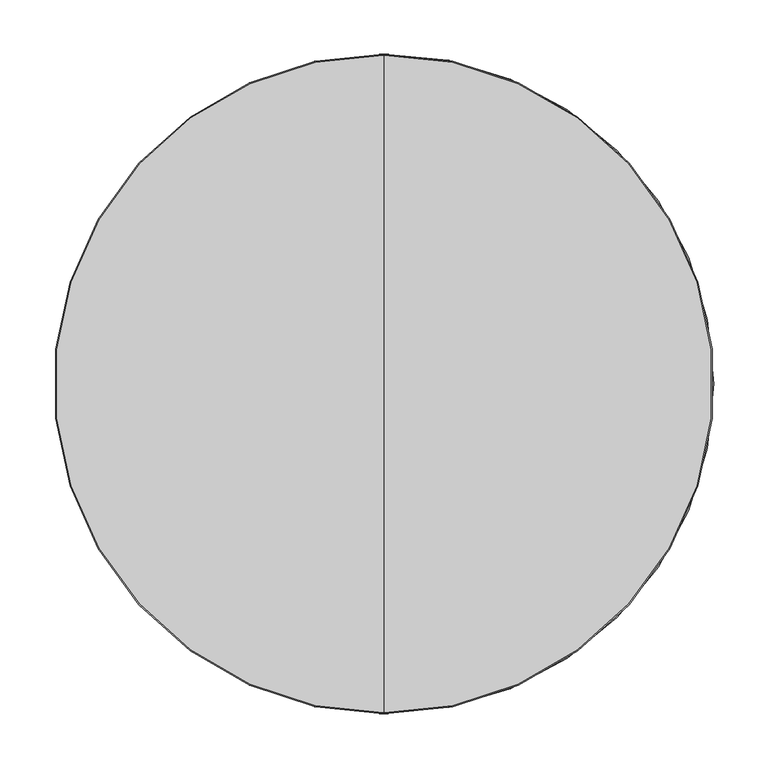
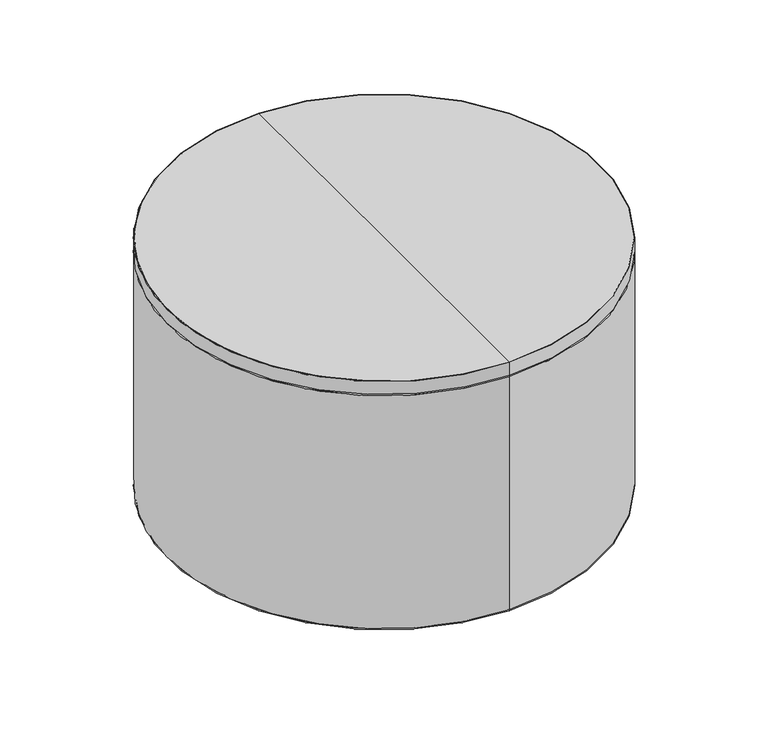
"""IFC4 building model written with IfcOpenShell, lengths in millimetres: furniture geometry, Indiana-Otty-Ottoman_Round_Table : 840-2415ROT."""

from ifc_helpers import new_model, si_unit, point, frame, origin, place, context, project, spatial, polyline, circle_curve, ellipse_curve, trimmed, source, transform, mapped, element, save
from ifc_brep_helpers import plane_surface, cylinder_surface, revolved_surface, advanced_brep


def furniture_63529f93(model_context):
    return source(origin(), model_context, "Body", "AdvancedBrep", [
        advanced_brep(
        [(237.5670449, 57.5253392, 19.8875), (218.0814733, 68.7753392, 19.8875), (257.0526165, 46.2753392, 19.8875), (218.4698785, 68.5510934, 4.2458827), (256.6642112, 46.4995851, 4.2458827), (222.3541253, 66.3085225, -0.1125), (252.7799645, 48.742156, -0.1125), (228.675027, 62.6591482, -0.1125), (246.4590628, 52.3915303, -0.1125), (232.0477423, 60.7119101, 3.9179615), (243.0863475, 54.3387684, 3.9179615), (237.5670449, 57.5253392, 3.9179615)],
        [
            (0, 1),
            (1, 2, circle_curve(frame((237.5670449, 57.5253392, 19.8875), z_axis=(0.0, 0.0, 1.0), x_axis=(-0.8660254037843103, 0.5000000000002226, 0.0)), 22.5)),
            (2, 0),
            (2, 1, circle_curve(frame((237.5670449, 57.5253392, 19.8875), z_axis=(0.0, 0.0, 1.0), x_axis=(-0.8660254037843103, 0.5000000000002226, 0.0)), 22.5)),
            (1, 3),
            (3, 4, circle_curve(frame((237.5670449, 57.5253392, 4.2458827), z_axis=(0.0, 0.0, 1.0), x_axis=(-0.8660254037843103, 0.5000000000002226, 0.0)), 22.0515082)),
            (4, 2),
            (4, 3, circle_curve(frame((237.5670449, 57.5253392, 4.2458827), z_axis=(0.0, 0.0, 1.0), x_axis=(-0.8660254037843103, 0.5000000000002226, 0.0)), 22.0515082)),
            (3, 5, circle_curve(frame((222.3541253, 66.3085225, 4.3744851), z_axis=(-0.5000000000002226, -0.8660254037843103, 0.0), x_axis=(0.8660254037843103, -0.5000000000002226, 0.0)), 4.4869851)),
            (5, 6, circle_curve(frame((237.5670449, 57.5253392, -0.1125), z_axis=(0.0, 0.0, 1.0), x_axis=(-0.8660254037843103, 0.5000000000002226, 0.0)), 17.5663665)),
            (6, 4, circle_curve(frame((252.7799645, 48.742156, 4.3744851), z_axis=(-0.5000000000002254, -0.8660254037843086, 0.0), x_axis=(-0.8660254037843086, 0.5000000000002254, 0.0)), 4.4869851)),
            (6, 5, circle_curve(frame((237.5670449, 57.5253392, -0.1125), z_axis=(0.0, 0.0, 1.0), x_axis=(-0.8660254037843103, 0.5000000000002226, 0.0)), 17.5663665)),
            (5, 7),
            (7, 8, circle_curve(frame((237.5670449, 57.5253392, -0.1125), z_axis=(0.0, 0.0, 1.0), x_axis=(-0.8660254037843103, 0.5000000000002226, 0.0)), 10.2676178)),
            (8, 6),
            (8, 7, circle_curve(frame((237.5670449, 57.5253392, -0.1125), z_axis=(0.0, 0.0, 1.0), x_axis=(-0.8660254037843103, 0.5000000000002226, 0.0)), 10.2676178)),
            (7, 9, circle_curve(frame((228.675027, 62.6591482, 3.7842702), z_axis=(-0.5000000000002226, -0.8660254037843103, 0.0), x_axis=(0.8660254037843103, -0.5000000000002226, 0.0)), 3.8967702)),
            (9, 10, circle_curve(frame((237.5670449, 57.5253392, 3.9179615), z_axis=(0.0, 0.0, 1.0), x_axis=(-0.8660254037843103, 0.5000000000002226, 0.0)), 6.3731417)),
            (10, 8, circle_curve(frame((246.4590628, 52.3915303, 3.7842702), z_axis=(-0.5000000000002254, -0.8660254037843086, 0.0), x_axis=(-0.8660254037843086, 0.5000000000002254, 0.0)), 3.8967702)),
            (10, 9, circle_curve(frame((237.5670449, 57.5253392, 3.9179615), z_axis=(0.0, 0.0, 1.0), x_axis=(-0.8660254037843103, 0.5000000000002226, 0.0)), 6.3731417)),
            (9, 11),
            (11, 10),
        ],
        [
            plane_surface(frame((237.5670449, 57.5253392, 19.8875), z_axis=(0.0, 0.0, 1.0000000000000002), x_axis=(-0.8660254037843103, 0.5000000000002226, 0.0))),
            revolved_surface(polyline([(218.4698785, 68.5510934, 4.2458827), (218.0814733, 68.7753392, 19.8875)]), (237.5670449, 57.5253392, 31.0803862), (0.0, 0.0, 1.0)),
            revolved_surface(trimmed(ellipse_curve(frame((222.3541253, 66.3085225, 4.3744851), z_axis=(0.5000000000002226, 0.8660254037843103, 0.0), x_axis=(0.8660254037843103, -0.5000000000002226, 0.0)), 4.4869851, 4.4869851), [point((222.3541253, 66.3085225, -0.1125))], [point((218.4698785, 68.5510934, 4.2458827))], True, "CARTESIAN"), (237.5670449, 57.5253392, 31.0803862), (0.0, 0.0, 1.0)),
            plane_surface(frame((237.5670449, 57.5253392, -0.1125), z_axis=(0.0, 0.0, -1.0000000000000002), x_axis=(-0.8660254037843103, 0.5000000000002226, 0.0))),
            revolved_surface(trimmed(ellipse_curve(frame((228.675027, 62.6591482, 3.7842702), z_axis=(0.5000000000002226, 0.8660254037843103, 0.0), x_axis=(0.8660254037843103, -0.5000000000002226, 0.0)), 3.8967702, 3.8967702), [point((232.0477423, 60.7119101, 3.9179615))], [point((228.675027, 62.6591482, -0.1125))], True, "CARTESIAN"), (237.5670449, 57.5253392, 31.0803862), (0.0, 0.0, 1.0)),
            plane_surface(frame((237.5670449, 57.5253392, 3.9179615), z_axis=(0.0, 0.0, -1.0000000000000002), x_axis=(-0.8660254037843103, 0.5000000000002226, 0.0))),
        ],
        [
            (0, [[1, 2, 3]]),
            (0, [[-3, 4, -1]]),
            (1, [[-2, 5, 6, 7]]),
            (1, [[-4, -7, 8, -5]]),
            (2, [[-6, 9, 10, 11]]),
            (2, [[-8, -11, 12, -9]]),
            (3, [[-10, 13, 14, 15]]),
            (3, [[-12, -15, 16, -13]]),
            (4, [[-14, 17, 18, 19]]),
            (4, [[-16, -19, 20, -17]]),
            (5, [[-18, 21, 22]]),
            (5, [[-20, -22, -21]]),
        ],
    ),
        advanced_brep(
        [(168.6019276, -176.9764263, 19.8875), (168.6019276, -154.4764263, 19.8875), (168.6019276, -199.4764263, 19.8875), (168.6019276, -154.9249181, 4.2458827), (168.6019276, -199.0279346, 4.2458827), (168.6019276, -159.4100599, -0.1125), (168.6019276, -194.5427928, -0.1125), (168.6019276, -166.7088085, -0.1125), (168.6019276, -187.2440442, -0.1125), (168.6019276, -170.6032847, 3.9179615), (168.6019276, -183.349568, 3.9179615), (168.6019276, -176.9764263, 3.9179615)],
        [
            (0, 1),
            (1, 2, circle_curve(frame((168.6019276, -176.9764263, 19.8875), z_axis=(0.0, 0.0, 1.0), x_axis=(0.0, 1.0, 0.0)), 22.5)),
            (2, 0),
            (2, 1, circle_curve(frame((168.6019276, -176.9764263, 19.8875), z_axis=(0.0, 0.0, 1.0), x_axis=(0.0, 1.0, 0.0)), 22.5)),
            (1, 3),
            (3, 4, circle_curve(frame((168.6019276, -176.9764263, 4.2458827), z_axis=(0.0, 0.0, 1.0), x_axis=(0.0, 1.0, 0.0)), 22.0515082)),
            (4, 2),
            (4, 3, circle_curve(frame((168.6019276, -176.9764263, 4.2458827), z_axis=(0.0, 0.0, 1.0), x_axis=(0.0, 1.0, 0.0)), 22.0515082)),
            (3, 5, circle_curve(frame((168.6019276, -159.4100599, 4.3744851), z_axis=(-1.0, 0.0, 0.0), x_axis=(0.0, -1.0, 0.0)), 4.4869851)),
            (5, 6, circle_curve(frame((168.6019276, -176.9764263, -0.1125), z_axis=(0.0, 0.0, 1.0), x_axis=(0.0, 1.0, 0.0)), 17.5663665)),
            (6, 4, circle_curve(frame((168.6019276, -194.5427928, 4.3744851), z_axis=(-1.0, 0.0, 0.0), x_axis=(0.0, 1.0, 0.0)), 4.4869851)),
            (6, 5, circle_curve(frame((168.6019276, -176.9764263, -0.1125), z_axis=(0.0, 0.0, 1.0), x_axis=(0.0, 1.0, 0.0)), 17.5663665)),
            (5, 7),
            (7, 8, circle_curve(frame((168.6019276, -176.9764263, -0.1125), z_axis=(0.0, 0.0, 1.0), x_axis=(0.0, 1.0, 0.0)), 10.2676178)),
            (8, 6),
            (8, 7, circle_curve(frame((168.6019276, -176.9764263, -0.1125), z_axis=(0.0, 0.0, 1.0), x_axis=(0.0, 1.0, 0.0)), 10.2676178)),
            (7, 9, circle_curve(frame((168.6019276, -166.7088085, 3.7842702), z_axis=(-1.0, 0.0, 0.0), x_axis=(0.0, -1.0, 0.0)), 3.8967702)),
            (9, 10, circle_curve(frame((168.6019276, -176.9764263, 3.9179615), z_axis=(0.0, 0.0, 1.0), x_axis=(0.0, 1.0, 0.0)), 6.3731417)),
            (10, 8, circle_curve(frame((168.6019276, -187.2440442, 3.7842702), z_axis=(-1.0, 0.0, 0.0), x_axis=(0.0, 1.0, 0.0)), 3.8967702)),
            (10, 9, circle_curve(frame((168.6019276, -176.9764263, 3.9179615), z_axis=(0.0, 0.0, 1.0), x_axis=(0.0, 1.0, 0.0)), 6.3731417)),
            (9, 11),
            (11, 10),
        ],
        [
            plane_surface(frame((168.6019276, -176.9764263, 19.8875), z_axis=(0.0, 0.0, 1.0), x_axis=(0.0, 1.0, 0.0))),
            revolved_surface(polyline([(168.6019276, -154.9249181, 4.2458827), (168.6019276, -154.4764263, 19.8875)]), (168.6019276, -176.9764263, 31.0803862), (0.0, 0.0, 1.0)),
            revolved_surface(trimmed(ellipse_curve(frame((168.6019276, -159.4100599, 4.3744851), z_axis=(1.0, 0.0, 0.0), x_axis=(0.0, -1.0, 0.0)), 4.4869851, 4.4869851), [point((168.6019276, -159.4100599, -0.1125))], [point((168.6019276, -154.9249181, 4.2458827))], True, "CARTESIAN"), (168.6019276, -176.9764263, 31.0803862), (0.0, 0.0, 1.0)),
            plane_surface(frame((168.6019276, -176.9764263, -0.1125), z_axis=(0.0, 0.0, -1.0), x_axis=(0.0, 1.0, 0.0))),
            revolved_surface(trimmed(ellipse_curve(frame((168.6019276, -166.7088085, 3.7842702), z_axis=(1.0, 0.0, 0.0), x_axis=(0.0, -1.0, 0.0)), 3.8967702, 3.8967702), [point((168.6019276, -170.6032847, 3.9179615))], [point((168.6019276, -166.7088085, -0.1125))], True, "CARTESIAN"), (168.6019276, -176.9764263, 31.0803862), (0.0, 0.0, 1.0)),
            plane_surface(frame((168.6019276, -176.9764263, 3.9179615), z_axis=(0.0, 0.0, -1.0), x_axis=(0.0, 1.0, 0.0))),
        ],
        [
            (0, [[1, 2, 3]]),
            (0, [[-3, 4, -1]]),
            (1, [[-2, 5, 6, 7]]),
            (1, [[-4, -7, 8, -5]]),
            (2, [[-6, 9, 10, 11]]),
            (2, [[-8, -11, 12, -9]]),
            (3, [[-10, 13, 14, 15]]),
            (3, [[-12, -15, 16, -13]]),
            (4, [[-14, 17, 18, 19]]),
            (4, [[-16, -19, 20, -17]]),
            (5, [[-18, 21, 22]]),
            (5, [[-20, -22, -21]]),
        ],
    ),
        advanced_brep(
        [(0.0, -303.8078125, 361.95), (0.0, 303.8078125, 361.95), (0.0, 0.0, 361.95), (0.0, -303.8078125, 381.0), (0.0, 303.8078125, 381.0), (0.0, 0.0, 381.0)],
        [
            (0, 1, circle_curve(frame((0.0, 0.0, 361.95), z_axis=(0.0, 0.0, -1.0), x_axis=(0.0, 1.0, 0.0)), 303.8078125)),
            (1, 2),
            (2, 0),
            (1, 0, circle_curve(frame((0.0, 0.0, 361.95), z_axis=(0.0, 0.0, -1.0), x_axis=(0.0, 1.0, 0.0)), 303.8078125)),
            (3, 4, circle_curve(frame((0.0, 0.0, 381.0), z_axis=(0.0, 0.0, -1.0), x_axis=(0.0, 1.0, 0.0)), 303.8078125)),
            (4, 1),
            (0, 3),
            (4, 3, circle_curve(frame((0.0, 0.0, 381.0), z_axis=(0.0, 0.0, -1.0), x_axis=(0.0, 1.0, 0.0)), 303.8078125)),
            (5, 4),
            (3, 5),
        ],
        [
            plane_surface(frame((0.0, 0.0, 361.95), z_axis=(0.0, 0.0, -1.0), x_axis=(0.0, 1.0, 0.0))),
            cylinder_surface(frame((0.0, 0.0, 387.35), z_axis=(0.0, 0.0, 1.0), x_axis=(0.0, 1.0, 0.0)), 303.8078125),
            plane_surface(frame((0.0, 0.0, 381.0), z_axis=(0.0, 0.0, 1.0), x_axis=(0.0, 1.0, 0.0))),
        ],
        [
            (0, [[1, 2, 3]]),
            (0, [[4, -3, -2]]),
            (1, [[5, 6, -1, 7]]),
            (1, [[8, -7, -4, -6]]),
            (2, [[9, -5, 10]]),
            (2, [[-10, -8, -9]]),
        ],
    ),
        advanced_brep(
        [(0.0, -303.8078125, 361.95), (0.0, 303.8078125, 361.95), (0.0, 303.8078125, 381.0), (0.0, -303.8078125, 381.0), (0.0, -304.8, 361.95), (0.0, 304.8, 361.95), (0.0, -304.8, 381.0), (0.0, 304.8, 381.0)],
        [
            (0, 1, circle_curve(frame((0.0, 0.0, 361.95), z_axis=(0.0, 0.0, -1.0), x_axis=(0.0, 1.0, 0.0)), 303.8078125)),
            (1, 2),
            (2, 3, circle_curve(frame((0.0, 0.0, 381.0), z_axis=(0.0, 0.0, 1.0), x_axis=(0.0, 1.0, 0.0)), 303.8078125)),
            (3, 0),
            (1, 0, circle_curve(frame((0.0, 0.0, 361.95), z_axis=(0.0, 0.0, -1.0), x_axis=(0.0, 1.0, 0.0)), 303.8078125)),
            (3, 2, circle_curve(frame((0.0, 0.0, 381.0), z_axis=(0.0, 0.0, 1.0), x_axis=(0.0, 1.0, 0.0)), 303.8078125)),
            (4, 5, circle_curve(frame((0.0, 0.0, 361.95), z_axis=(0.0, 0.0, -1.0), x_axis=(0.0, 1.0, 0.0)), 304.8)),
            (5, 1),
            (0, 4),
            (5, 4, circle_curve(frame((0.0, 0.0, 361.95), z_axis=(0.0, 0.0, -1.0), x_axis=(0.0, 1.0, 0.0)), 304.8)),
            (6, 7, circle_curve(frame((0.0, 0.0, 381.0), z_axis=(0.0, 0.0, -1.0), x_axis=(0.0, 1.0, 0.0)), 304.8)),
            (7, 5),
            (4, 6),
            (7, 6, circle_curve(frame((0.0, 0.0, 381.0), z_axis=(0.0, 0.0, -1.0), x_axis=(0.0, 1.0, 0.0)), 304.8)),
            (2, 7),
            (6, 3),
        ],
        [
            revolved_surface(polyline([(0.0, 303.8078125, 381.0), (0.0, 303.8078125, 361.95)]), (0.0, 0.0, 400.05), (0.0, 0.0, 1.0)),
            plane_surface(frame((0.0, 0.0, 361.95), z_axis=(0.0, 0.0, -1.0), x_axis=(0.0, 1.0, 0.0))),
            cylinder_surface(frame((0.0, 0.0, 400.05), z_axis=(0.0, 0.0, 1.0), x_axis=(0.0, 1.0, 0.0)), 304.8),
            plane_surface(frame((0.0, 0.0, 381.0), z_axis=(0.0, 0.0, 1.0), x_axis=(0.0, 1.0, 0.0))),
        ],
        [
            (0, [[1, 2, 3, 4]]),
            (0, [[5, -4, 6, -2]]),
            (1, [[7, 8, -1, 9]]),
            (1, [[10, -9, -5, -8]]),
            (2, [[11, 12, -7, 13]]),
            (2, [[14, -13, -10, -12]]),
            (3, [[-3, 15, -11, 16]]),
            (3, [[-6, -16, -14, -15]]),
        ],
    ),
        advanced_brep(
        [(-68.9651173, -234.5017656, 19.8875), (-49.4795457, -223.2517656, 19.8875), (-88.4506889, -245.7517656, 19.8875), (-49.867951, -223.4760115, 4.2458827), (-88.0622836, -245.5275197, 4.2458827), (-53.7521977, -225.7185823, -0.1125), (-84.1780369, -243.2849488, -0.1125), (-60.0730994, -229.3679567, -0.1125), (-77.8571352, -239.6355745, -0.1125), (-63.4458147, -231.3151948, 3.9179615), (-74.4844199, -237.6883364, 3.9179615), (-68.9651173, -234.5017656, 3.9179615)],
        [
            (0, 1),
            (1, 2, circle_curve(frame((-68.9651173, -234.5017656, 19.8875), z_axis=(0.0, 0.0, 1.0), x_axis=(0.866025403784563, 0.49999999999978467, 0.0)), 22.5)),
            (2, 0),
            (2, 1, circle_curve(frame((-68.9651173, -234.5017656, 19.8875), z_axis=(0.0, 0.0, 1.0), x_axis=(0.866025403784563, 0.49999999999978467, 0.0)), 22.5)),
            (1, 3),
            (3, 4, circle_curve(frame((-68.9651173, -234.5017656, 4.2458827), z_axis=(0.0, 0.0, 1.0), x_axis=(0.866025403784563, 0.49999999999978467, 0.0)), 22.0515082)),
            (4, 2),
            (4, 3, circle_curve(frame((-68.9651173, -234.5017656, 4.2458827), z_axis=(0.0, 0.0, 1.0), x_axis=(0.866025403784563, 0.49999999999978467, 0.0)), 22.0515082)),
            (3, 5, circle_curve(frame((-53.7521977, -225.7185823, 4.3744851), z_axis=(-0.49999999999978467, 0.866025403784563, 0.0), x_axis=(-0.866025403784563, -0.49999999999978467, 0.0)), 4.4869851)),
            (5, 6, circle_curve(frame((-68.9651173, -234.5017656, -0.1125), z_axis=(0.0, 0.0, 1.0), x_axis=(0.866025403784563, 0.49999999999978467, 0.0)), 17.5663665)),
            (6, 4, circle_curve(frame((-84.1780369, -243.2849488, 4.3744851), z_axis=(-0.4999999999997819, 0.8660254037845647, 0.0), x_axis=(0.8660254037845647, 0.4999999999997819, 0.0)), 4.4869851)),
            (6, 5, circle_curve(frame((-68.9651173, -234.5017656, -0.1125), z_axis=(0.0, 0.0, 1.0), x_axis=(0.866025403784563, 0.49999999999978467, 0.0)), 17.5663665)),
            (5, 7),
            (7, 8, circle_curve(frame((-68.9651173, -234.5017656, -0.1125), z_axis=(0.0, 0.0, 1.0), x_axis=(0.866025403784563, 0.49999999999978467, 0.0)), 10.2676178)),
            (8, 6),
            (8, 7, circle_curve(frame((-68.9651173, -234.5017656, -0.1125), z_axis=(0.0, 0.0, 1.0), x_axis=(0.866025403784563, 0.49999999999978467, 0.0)), 10.2676178)),
            (7, 9, circle_curve(frame((-60.0730994, -229.3679567, 3.7842702), z_axis=(-0.49999999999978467, 0.866025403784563, 0.0), x_axis=(-0.866025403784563, -0.49999999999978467, 0.0)), 3.8967702)),
            (9, 10, circle_curve(frame((-68.9651173, -234.5017656, 3.9179615), z_axis=(0.0, 0.0, 1.0), x_axis=(0.866025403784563, 0.49999999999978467, 0.0)), 6.3731417)),
            (10, 8, circle_curve(frame((-77.8571352, -239.6355745, 3.7842702), z_axis=(-0.4999999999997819, 0.8660254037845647, 0.0), x_axis=(0.8660254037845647, 0.4999999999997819, 0.0)), 3.8967702)),
            (10, 9, circle_curve(frame((-68.9651173, -234.5017656, 3.9179615), z_axis=(0.0, 0.0, 1.0), x_axis=(0.866025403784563, 0.49999999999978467, 0.0)), 6.3731417)),
            (9, 11),
            (11, 10),
        ],
        [
            plane_surface(frame((-68.9651173, -234.5017656, 19.8875), z_axis=(0.0, 0.0, 1.0000000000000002), x_axis=(0.866025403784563, 0.49999999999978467, 0.0))),
            revolved_surface(polyline([(-49.867951, -223.4760115, 4.2458827), (-49.4795457, -223.2517656, 19.8875)]), (-68.9651173, -234.5017656, 31.0803862), (0.0, 0.0, 1.0)),
            revolved_surface(trimmed(ellipse_curve(frame((-53.7521977, -225.7185823, 4.3744851), z_axis=(0.49999999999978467, -0.866025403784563, 0.0), x_axis=(-0.866025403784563, -0.49999999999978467, 0.0)), 4.4869851, 4.4869851), [point((-53.7521977, -225.7185823, -0.1125))], [point((-49.867951, -223.4760115, 4.2458827))], True, "CARTESIAN"), (-68.9651173, -234.5017656, 31.0803862), (0.0, 0.0, 1.0)),
            plane_surface(frame((-68.9651173, -234.5017656, -0.1125), z_axis=(0.0, 0.0, -1.0000000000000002), x_axis=(0.866025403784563, 0.49999999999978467, 0.0))),
            revolved_surface(trimmed(ellipse_curve(frame((-60.0730994, -229.3679567, 3.7842702), z_axis=(0.49999999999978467, -0.866025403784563, 0.0), x_axis=(-0.866025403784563, -0.49999999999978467, 0.0)), 3.8967702, 3.8967702), [point((-63.4458147, -231.3151948, 3.9179615))], [point((-60.0730994, -229.3679567, -0.1125))], True, "CARTESIAN"), (-68.9651173, -234.5017656, 31.0803862), (0.0, 0.0, 1.0)),
            plane_surface(frame((-68.9651173, -234.5017656, 3.9179615), z_axis=(0.0, 0.0, -1.0000000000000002), x_axis=(0.866025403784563, 0.49999999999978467, 0.0))),
        ],
        [
            (0, [[1, 2, 3]]),
            (0, [[-3, 4, -1]]),
            (1, [[-2, 5, 6, 7]]),
            (1, [[-4, -7, 8, -5]]),
            (2, [[-6, 9, 10, 11]]),
            (2, [[-8, -11, 12, -9]]),
            (3, [[-10, 13, 14, 15]]),
            (3, [[-12, -15, 16, -13]]),
            (4, [[-14, 17, 18, 19]]),
            (4, [[-16, -19, 20, -17]]),
            (5, [[-18, 21, 22]]),
            (5, [[-20, -22, -21]]),
        ],
    ),
        advanced_brep(
        [(-237.5670449, -57.5253392, 19.8875), (-218.0814733, -68.7753392, 19.8875), (-257.0526165, -46.2753392, 19.8875), (-218.4698785, -68.5510934, 4.2458827), (-256.6642112, -46.4995851, 4.2458827), (-222.3541253, -66.3085225, -0.1125), (-252.7799645, -48.742156, -0.1125), (-228.675027, -62.6591482, -0.1125), (-246.4590628, -52.3915303, -0.1125), (-232.0477423, -60.7119101, 3.9179615), (-243.0863475, -54.3387684, 3.9179615), (-237.5670449, -57.5253392, 3.9179615)],
        [
            (0, 1),
            (1, 2, circle_curve(frame((-237.5670449, -57.5253392, 19.8875), z_axis=(0.0, 0.0, 1.0), x_axis=(0.8660254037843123, -0.500000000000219, 0.0)), 22.5)),
            (2, 0),
            (2, 1, circle_curve(frame((-237.5670449, -57.5253392, 19.8875), z_axis=(0.0, 0.0, 1.0), x_axis=(0.8660254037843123, -0.500000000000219, 0.0)), 22.5)),
            (1, 3),
            (3, 4, circle_curve(frame((-237.5670449, -57.5253392, 4.2458827), z_axis=(0.0, 0.0, 1.0), x_axis=(0.8660254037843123, -0.500000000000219, 0.0)), 22.0515082)),
            (4, 2),
            (4, 3, circle_curve(frame((-237.5670449, -57.5253392, 4.2458827), z_axis=(0.0, 0.0, 1.0), x_axis=(0.8660254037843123, -0.500000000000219, 0.0)), 22.0515082)),
            (3, 5, circle_curve(frame((-222.3541253, -66.3085225, 4.3744851), z_axis=(0.500000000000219, 0.8660254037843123, 0.0), x_axis=(-0.8660254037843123, 0.500000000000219, 0.0)), 4.4869851)),
            (5, 6, circle_curve(frame((-237.5670449, -57.5253392, -0.1125), z_axis=(0.0, 0.0, 1.0), x_axis=(0.8660254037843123, -0.500000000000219, 0.0)), 17.5663665)),
            (6, 4, circle_curve(frame((-252.7799645, -48.742156, 4.3744851), z_axis=(0.5000000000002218, 0.8660254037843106, 0.0), x_axis=(0.8660254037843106, -0.5000000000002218, 0.0)), 4.4869851)),
            (6, 5, circle_curve(frame((-237.5670449, -57.5253392, -0.1125), z_axis=(0.0, 0.0, 1.0), x_axis=(0.8660254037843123, -0.500000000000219, 0.0)), 17.5663665)),
            (5, 7),
            (7, 8, circle_curve(frame((-237.5670449, -57.5253392, -0.1125), z_axis=(0.0, 0.0, 1.0), x_axis=(0.8660254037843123, -0.500000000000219, 0.0)), 10.2676178)),
            (8, 6),
            (8, 7, circle_curve(frame((-237.5670449, -57.5253392, -0.1125), z_axis=(0.0, 0.0, 1.0), x_axis=(0.8660254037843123, -0.500000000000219, 0.0)), 10.2676178)),
            (7, 9, circle_curve(frame((-228.675027, -62.6591482, 3.7842702), z_axis=(0.500000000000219, 0.8660254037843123, 0.0), x_axis=(-0.8660254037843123, 0.500000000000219, 0.0)), 3.8967702)),
            (9, 10, circle_curve(frame((-237.5670449, -57.5253392, 3.9179615), z_axis=(0.0, 0.0, 1.0), x_axis=(0.8660254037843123, -0.500000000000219, 0.0)), 6.3731417)),
            (10, 8, circle_curve(frame((-246.4590628, -52.3915303, 3.7842702), z_axis=(0.5000000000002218, 0.8660254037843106, 0.0), x_axis=(0.8660254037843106, -0.5000000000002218, 0.0)), 3.8967702)),
            (10, 9, circle_curve(frame((-237.5670449, -57.5253392, 3.9179615), z_axis=(0.0, 0.0, 1.0), x_axis=(0.8660254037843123, -0.500000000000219, 0.0)), 6.3731417)),
            (9, 11),
            (11, 10),
        ],
        [
            plane_surface(frame((-237.5670449, -57.5253392, 19.8875), z_axis=(0.0, 0.0, 1.0), x_axis=(0.8660254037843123, -0.500000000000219, 0.0))),
            revolved_surface(polyline([(-218.4698785, -68.5510934, 4.2458827), (-218.0814733, -68.7753392, 19.8875)]), (-237.5670449, -57.5253392, 31.0803862), (0.0, 0.0, 1.0)),
            revolved_surface(trimmed(ellipse_curve(frame((-222.3541253, -66.3085225, 4.3744851), z_axis=(-0.500000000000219, -0.8660254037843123, 0.0), x_axis=(-0.8660254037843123, 0.500000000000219, 0.0)), 4.4869851, 4.4869851), [point((-222.3541253, -66.3085225, -0.1125))], [point((-218.4698785, -68.5510934, 4.2458827))], True, "CARTESIAN"), (-237.5670449, -57.5253392, 31.0803862), (0.0, 0.0, 1.0)),
            plane_surface(frame((-237.5670449, -57.5253392, -0.1125), z_axis=(0.0, 0.0, -1.0), x_axis=(0.8660254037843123, -0.500000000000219, 0.0))),
            revolved_surface(trimmed(ellipse_curve(frame((-228.675027, -62.6591482, 3.7842702), z_axis=(-0.500000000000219, -0.8660254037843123, 0.0), x_axis=(-0.8660254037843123, 0.500000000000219, 0.0)), 3.8967702, 3.8967702), [point((-232.0477423, -60.7119101, 3.9179615))], [point((-228.675027, -62.6591482, -0.1125))], True, "CARTESIAN"), (-237.5670449, -57.5253392, 31.0803862), (0.0, 0.0, 1.0)),
            plane_surface(frame((-237.5670449, -57.5253392, 3.9179615), z_axis=(0.0, 0.0, -1.0), x_axis=(0.8660254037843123, -0.500000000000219, 0.0))),
        ],
        [
            (0, [[1, 2, 3]]),
            (0, [[-3, 4, -1]]),
            (1, [[-2, 5, 6, 7]]),
            (1, [[-4, -7, 8, -5]]),
            (2, [[-6, 9, 10, 11]]),
            (2, [[-8, -11, 12, -9]]),
            (3, [[-10, 13, 14, 15]]),
            (3, [[-12, -15, 16, -13]]),
            (4, [[-14, 17, 18, 19]]),
            (4, [[-16, -19, 20, -17]]),
            (5, [[-18, 21, 22]]),
            (5, [[-20, -22, -21]]),
        ],
    ),
        advanced_brep(
        [(68.9651173, 234.5017656, 19.8875), (49.4795457, 223.2517656, 19.8875), (88.4506889, 245.7517656, 19.8875), (49.867951, 223.4760115, 4.2458827), (88.0622836, 245.5275197, 4.2458827), (53.7521977, 225.7185823, -0.1125), (84.1780369, 243.2849488, -0.1125), (60.0730994, 229.3679567, -0.1125), (77.8571352, 239.6355745, -0.1125), (63.4458147, 231.3151948, 3.9179615), (74.4844199, 237.6883364, 3.9179615), (68.9651173, 234.5017656, 3.9179615)],
        [
            (0, 1),
            (1, 2, circle_curve(frame((68.9651173, 234.5017656, 19.8875), z_axis=(0.0, 0.0, 1.0), x_axis=(-0.8660254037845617, -0.4999999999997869, 0.0)), 22.5)),
            (2, 0),
            (2, 1, circle_curve(frame((68.9651173, 234.5017656, 19.8875), z_axis=(0.0, 0.0, 1.0), x_axis=(-0.8660254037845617, -0.4999999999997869, 0.0)), 22.5)),
            (1, 3),
            (3, 4, circle_curve(frame((68.9651173, 234.5017656, 4.2458827), z_axis=(0.0, 0.0, 1.0), x_axis=(-0.8660254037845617, -0.4999999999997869, 0.0)), 22.0515082)),
            (4, 2),
            (4, 3, circle_curve(frame((68.9651173, 234.5017656, 4.2458827), z_axis=(0.0, 0.0, 1.0), x_axis=(-0.8660254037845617, -0.4999999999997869, 0.0)), 22.0515082)),
            (3, 5, circle_curve(frame((53.7521977, 225.7185823, 4.3744851), z_axis=(0.4999999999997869, -0.8660254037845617, 0.0), x_axis=(0.8660254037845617, 0.4999999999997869, 0.0)), 4.4869851)),
            (5, 6, circle_curve(frame((68.9651173, 234.5017656, -0.1125), z_axis=(0.0, 0.0, 1.0), x_axis=(-0.8660254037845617, -0.4999999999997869, 0.0)), 17.5663665)),
            (6, 4, circle_curve(frame((84.1780369, 243.2849488, 4.3744851), z_axis=(0.4999999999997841, -0.8660254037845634, 0.0), x_axis=(-0.8660254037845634, -0.4999999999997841, 0.0)), 4.4869851)),
            (6, 5, circle_curve(frame((68.9651173, 234.5017656, -0.1125), z_axis=(0.0, 0.0, 1.0), x_axis=(-0.8660254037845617, -0.4999999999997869, 0.0)), 17.5663665)),
            (5, 7),
            (7, 8, circle_curve(frame((68.9651173, 234.5017656, -0.1125), z_axis=(0.0, 0.0, 1.0), x_axis=(-0.8660254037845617, -0.4999999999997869, 0.0)), 10.2676178)),
            (8, 6),
            (8, 7, circle_curve(frame((68.9651173, 234.5017656, -0.1125), z_axis=(0.0, 0.0, 1.0), x_axis=(-0.8660254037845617, -0.4999999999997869, 0.0)), 10.2676178)),
            (7, 9, circle_curve(frame((60.0730994, 229.3679567, 3.7842702), z_axis=(0.4999999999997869, -0.8660254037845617, 0.0), x_axis=(0.8660254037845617, 0.4999999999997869, 0.0)), 3.8967702)),
            (9, 10, circle_curve(frame((68.9651173, 234.5017656, 3.9179615), z_axis=(0.0, 0.0, 1.0), x_axis=(-0.8660254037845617, -0.4999999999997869, 0.0)), 6.3731417)),
            (10, 8, circle_curve(frame((77.8571352, 239.6355745, 3.7842702), z_axis=(0.4999999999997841, -0.8660254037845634, 0.0), x_axis=(-0.8660254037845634, -0.4999999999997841, 0.0)), 3.8967702)),
            (10, 9, circle_curve(frame((68.9651173, 234.5017656, 3.9179615), z_axis=(0.0, 0.0, 1.0), x_axis=(-0.8660254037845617, -0.4999999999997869, 0.0)), 6.3731417)),
            (9, 11),
            (11, 10),
        ],
        [
            plane_surface(frame((68.9651173, 234.5017656, 19.8875), z_axis=(0.0, 0.0, 1.0), x_axis=(-0.8660254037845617, -0.4999999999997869, 0.0))),
            revolved_surface(polyline([(49.867951, 223.4760115, 4.2458827), (49.4795457, 223.2517656, 19.8875)]), (68.9651173, 234.5017656, 31.0803862), (0.0, 0.0, 1.0)),
            revolved_surface(trimmed(ellipse_curve(frame((53.7521977, 225.7185823, 4.3744851), z_axis=(-0.4999999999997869, 0.8660254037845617, 0.0), x_axis=(0.8660254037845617, 0.4999999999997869, 0.0)), 4.4869851, 4.4869851), [point((53.7521977, 225.7185823, -0.1125))], [point((49.867951, 223.4760115, 4.2458827))], True, "CARTESIAN"), (68.9651173, 234.5017656, 31.0803862), (0.0, 0.0, 1.0)),
            plane_surface(frame((68.9651173, 234.5017656, -0.1125), z_axis=(0.0, 0.0, -1.0), x_axis=(-0.8660254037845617, -0.4999999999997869, 0.0))),
            revolved_surface(trimmed(ellipse_curve(frame((60.0730994, 229.3679567, 3.7842702), z_axis=(-0.4999999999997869, 0.8660254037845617, 0.0), x_axis=(0.8660254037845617, 0.4999999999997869, 0.0)), 3.8967702, 3.8967702), [point((63.4458147, 231.3151948, 3.9179615))], [point((60.0730994, 229.3679567, -0.1125))], True, "CARTESIAN"), (68.9651173, 234.5017656, 31.0803862), (0.0, 0.0, 1.0)),
            plane_surface(frame((68.9651173, 234.5017656, 3.9179615), z_axis=(0.0, 0.0, -1.0), x_axis=(-0.8660254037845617, -0.4999999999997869, 0.0))),
        ],
        [
            (0, [[1, 2, 3]]),
            (0, [[-3, 4, -1]]),
            (1, [[-2, 5, 6, 7]]),
            (1, [[-4, -7, 8, -5]]),
            (2, [[-6, 9, 10, 11]]),
            (2, [[-8, -11, 12, -9]]),
            (3, [[-10, 13, 14, 15]]),
            (3, [[-12, -15, 16, -13]]),
            (4, [[-14, 17, 18, 19]]),
            (4, [[-16, -19, 20, -17]]),
            (5, [[-18, 21, 22]]),
            (5, [[-20, -22, -21]]),
        ],
    ),
        advanced_brep(
        [(-168.6019276, 176.9764263, 19.8875), (-168.6019276, 154.4764263, 19.8875), (-168.6019276, 199.4764263, 19.8875), (-168.6019276, 154.9249181, 4.2458827), (-168.6019276, 199.0279346, 4.2458827), (-168.6019276, 159.4100599, -0.1125), (-168.6019276, 194.5427928, -0.1125), (-168.6019276, 166.7088085, -0.1125), (-168.6019276, 187.2440442, -0.1125), (-168.6019276, 170.6032847, 3.9179615), (-168.6019276, 183.349568, 3.9179615), (-168.6019276, 176.9764263, 3.9179615)],
        [
            (0, 1),
            (1, 2, circle_curve(frame((-168.6019276, 176.9764263, 19.8875), z_axis=(0.0, 0.0, 1.0), x_axis=(0.0, -1.0, 0.0)), 22.5)),
            (2, 0),
            (2, 1, circle_curve(frame((-168.6019276, 176.9764263, 19.8875), z_axis=(0.0, 0.0, 1.0), x_axis=(0.0, -1.0, 0.0)), 22.5)),
            (1, 3),
            (3, 4, circle_curve(frame((-168.6019276, 176.9764263, 4.2458827), z_axis=(0.0, 0.0, 1.0), x_axis=(0.0, -1.0, 0.0)), 22.0515082)),
            (4, 2),
            (4, 3, circle_curve(frame((-168.6019276, 176.9764263, 4.2458827), z_axis=(0.0, 0.0, 1.0), x_axis=(0.0, -1.0, 0.0)), 22.0515082)),
            (3, 5, circle_curve(frame((-168.6019276, 159.4100599, 4.3744851), z_axis=(1.0, 0.0, 0.0), x_axis=(0.0, 1.0, 0.0)), 4.4869851)),
            (5, 6, circle_curve(frame((-168.6019276, 176.9764263, -0.1125), z_axis=(0.0, 0.0, 1.0), x_axis=(0.0, -1.0, 0.0)), 17.5663665)),
            (6, 4, circle_curve(frame((-168.6019276, 194.5427928, 4.3744851), z_axis=(1.0, 0.0, 0.0), x_axis=(0.0, -1.0, 0.0)), 4.4869851)),
            (6, 5, circle_curve(frame((-168.6019276, 176.9764263, -0.1125), z_axis=(0.0, 0.0, 1.0), x_axis=(0.0, -1.0, 0.0)), 17.5663665)),
            (5, 7),
            (7, 8, circle_curve(frame((-168.6019276, 176.9764263, -0.1125), z_axis=(0.0, 0.0, 1.0), x_axis=(0.0, -1.0, 0.0)), 10.2676178)),
            (8, 6),
            (8, 7, circle_curve(frame((-168.6019276, 176.9764263, -0.1125), z_axis=(0.0, 0.0, 1.0), x_axis=(0.0, -1.0, 0.0)), 10.2676178)),
            (7, 9, circle_curve(frame((-168.6019276, 166.7088085, 3.7842702), z_axis=(1.0, 0.0, 0.0), x_axis=(0.0, 1.0, 0.0)), 3.8967702)),
            (9, 10, circle_curve(frame((-168.6019276, 176.9764263, 3.9179615), z_axis=(0.0, 0.0, 1.0), x_axis=(0.0, -1.0, 0.0)), 6.3731417)),
            (10, 8, circle_curve(frame((-168.6019276, 187.2440442, 3.7842702), z_axis=(1.0, 0.0, 0.0), x_axis=(0.0, -1.0, 0.0)), 3.8967702)),
            (10, 9, circle_curve(frame((-168.6019276, 176.9764263, 3.9179615), z_axis=(0.0, 0.0, 1.0), x_axis=(0.0, -1.0, 0.0)), 6.3731417)),
            (9, 11),
            (11, 10),
        ],
        [
            plane_surface(frame((-168.6019276, 176.9764263, 19.8875), z_axis=(0.0, 0.0, 1.0), x_axis=(0.0, -1.0, 0.0))),
            revolved_surface(polyline([(-168.6019276, 154.9249181, 4.2458827), (-168.6019276, 154.4764263, 19.8875)]), (-168.6019276, 176.9764263, 31.0803862), (0.0, 0.0, 1.0)),
            revolved_surface(trimmed(ellipse_curve(frame((-168.6019276, 159.4100599, 4.3744851), z_axis=(-1.0, 0.0, 0.0), x_axis=(0.0, 1.0, 0.0)), 4.4869851, 4.4869851), [point((-168.6019276, 159.4100599, -0.1125))], [point((-168.6019276, 154.9249181, 4.2458827))], True, "CARTESIAN"), (-168.6019276, 176.9764263, 31.0803862), (0.0, 0.0, 1.0)),
            plane_surface(frame((-168.6019276, 176.9764263, -0.1125), z_axis=(0.0, 0.0, -1.0), x_axis=(0.0, -1.0, 0.0))),
            revolved_surface(trimmed(ellipse_curve(frame((-168.6019276, 166.7088085, 3.7842702), z_axis=(-1.0, 0.0, 0.0), x_axis=(0.0, 1.0, 0.0)), 3.8967702, 3.8967702), [point((-168.6019276, 170.6032847, 3.9179615))], [point((-168.6019276, 166.7088085, -0.1125))], True, "CARTESIAN"), (-168.6019276, 176.9764263, 31.0803862), (0.0, 0.0, 1.0)),
            plane_surface(frame((-168.6019276, 176.9764263, 3.9179615), z_axis=(0.0, 0.0, -1.0), x_axis=(0.0, -1.0, 0.0))),
        ],
        [
            (0, [[1, 2, 3]]),
            (0, [[-3, 4, -1]]),
            (1, [[-2, 5, 6, 7]]),
            (1, [[-4, -7, 8, -5]]),
            (2, [[-6, 9, 10, 11]]),
            (2, [[-8, -11, 12, -9]]),
            (3, [[-10, 13, 14, 15]]),
            (3, [[-12, -15, 16, -13]]),
            (4, [[-14, 17, 18, 19]]),
            (4, [[-16, -19, 20, -17]]),
            (5, [[-18, 21, 22]]),
            (5, [[-20, -22, -21]]),
        ],
    ),
        advanced_brep(
        [(0.0, 304.8, 14.675), (0.0, 301.625, 11.5), (0.0, -301.625, 11.5), (0.0, -304.8, 14.675), (0.0, 304.8, 359.965625), (0.0, -304.8, 359.965625), (0.0, 0.0, 361.95), (0.0, 302.815625, 361.95), (0.0, -302.815625, 361.95), (0.0, 0.0, 11.5), (-249.0764199, -77.4601615, 11.5), (-226.0576699, -37.590517, 11.5), (-57.4557423, -254.4365878, 11.5), (-80.4744923, -214.5669433, 11.5), (-191.6206776, 176.9764263, 11.5), (-145.5831776, 176.9764263, 11.5), (57.4557423, 254.4365878, 11.5), (80.4744923, 214.5669433, 11.5), (191.6206776, -176.9764263, 11.5), (145.5831776, -176.9764263, 11.5), (249.0764199, 77.4601615, 11.5), (226.0576699, 37.590517, 11.5), (-226.0576699, -37.590517, 19.834375), (-249.0764199, -77.4601615, 19.834375), (-80.4744923, -214.5669433, 19.834375), (-57.4557423, -254.4365878, 19.834375), (80.4744923, 214.5669433, 19.834375), (57.4557423, 254.4365878, 19.834375), (-145.5831776, 176.9764263, 19.834375), (-191.6206776, 176.9764263, 19.834375), (145.5831776, -176.9764263, 19.834375), (191.6206776, -176.9764263, 19.834375), (226.0576699, 37.590517, 19.834375), (249.0764199, 77.4601615, 19.834375)],
        [
            (0, 1, circle_curve(frame((0.0, 301.625, 14.675), z_axis=(-1.0, 0.0, 0.0), x_axis=(0.0, 1.0, 0.0)), 3.175)),
            (1, 2, circle_curve(frame((0.0, 0.0, 11.5), z_axis=(0.0, 0.0, 1.0), x_axis=(0.0, 1.0, 0.0)), 301.625)),
            (2, 3, circle_curve(frame((0.0, -301.625, 14.675), z_axis=(-1.0, 0.0, 0.0), x_axis=(0.0, -1.0, 0.0)), 3.175)),
            (3, 0, circle_curve(frame((0.0, 0.0, 14.675), z_axis=(0.0, 0.0, -1.0), x_axis=(0.0, 1.0, 0.0)), 304.8)),
            (0, 3, circle_curve(frame((0.0, 0.0, 14.675), z_axis=(0.0, 0.0, -1.0), x_axis=(0.0, 1.0, 0.0)), 304.8)),
            (2, 1, circle_curve(frame((0.0, 0.0, 11.5), z_axis=(0.0, 0.0, 1.0), x_axis=(0.0, 1.0, 0.0)), 301.625)),
            (4, 0),
            (3, 5),
            (5, 4, circle_curve(frame((0.0, 0.0, 359.965625), z_axis=(0.0, 0.0, -1.0), x_axis=(0.0, 1.0, 0.0)), 304.8)),
            (4, 5, circle_curve(frame((0.0, 0.0, 359.965625), z_axis=(0.0, 0.0, -1.0), x_axis=(0.0, 1.0, 0.0)), 304.8)),
            (6, 7),
            (7, 8, circle_curve(frame((0.0, 0.0, 361.95), z_axis=(0.0, 0.0, 1.0), x_axis=(0.0, 1.0, 0.0)), 302.815625)),
            (8, 6),
            (8, 7, circle_curve(frame((0.0, 0.0, 361.95), z_axis=(0.0, 0.0, 1.0), x_axis=(0.0, 1.0, 0.0)), 302.815625)),
            (1, 9),
            (9, 2),
            (10, 11, circle_curve(frame((-237.5670449, -57.5253392, 11.5), z_axis=(0.0, 0.0, 1.0), x_axis=(-0.500000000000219, -0.8660254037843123, 0.0)), 23.01875)),
            (11, 10, circle_curve(frame((-237.5670449, -57.5253392, 11.5), z_axis=(0.0, 0.0, 1.0), x_axis=(-0.500000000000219, -0.8660254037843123, 0.0)), 23.01875)),
            (12, 13, circle_curve(frame((-68.9651173, -234.5017656, 11.5), z_axis=(0.0, 0.0, 1.0), x_axis=(0.49999999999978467, -0.866025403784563, 0.0)), 23.01875)),
            (13, 12, circle_curve(frame((-68.9651173, -234.5017656, 11.5), z_axis=(0.0, 0.0, 1.0), x_axis=(0.49999999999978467, -0.866025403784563, 0.0)), 23.01875)),
            (14, 15, circle_curve(frame((-168.6019276, 176.9764263, 11.5), z_axis=(0.0, 0.0, 1.0), x_axis=(-1.0, 0.0, 0.0)), 23.01875)),
            (15, 14, circle_curve(frame((-168.6019276, 176.9764263, 11.5), z_axis=(0.0, 0.0, 1.0), x_axis=(-1.0, 0.0, 0.0)), 23.01875)),
            (16, 17, circle_curve(frame((68.9651173, 234.5017656, 11.5), z_axis=(0.0, 0.0, 1.0), x_axis=(-0.4999999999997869, 0.8660254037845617, 0.0)), 23.01875)),
            (17, 16, circle_curve(frame((68.9651173, 234.5017656, 11.5), z_axis=(0.0, 0.0, 1.0), x_axis=(-0.4999999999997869, 0.8660254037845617, 0.0)), 23.01875)),
            (18, 19, circle_curve(frame((168.6019276, -176.9764263, 11.5), z_axis=(0.0, 0.0, 1.0), x_axis=(1.0, 0.0, 0.0)), 23.01875)),
            (19, 18, circle_curve(frame((168.6019276, -176.9764263, 11.5), z_axis=(0.0, 0.0, 1.0), x_axis=(1.0, 0.0, 0.0)), 23.01875)),
            (20, 21, circle_curve(frame((237.5670449, 57.5253392, 11.5), z_axis=(0.0, 0.0, 1.0), x_axis=(0.5000000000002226, 0.8660254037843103, 0.0)), 23.01875)),
            (21, 20, circle_curve(frame((237.5670449, 57.5253392, 11.5), z_axis=(0.0, 0.0, 1.0), x_axis=(0.5000000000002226, 0.8660254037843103, 0.0)), 23.01875)),
            (22, 23, circle_curve(frame((-237.5670449, -57.5253392, 19.834375), z_axis=(0.0, 0.0, -1.0), x_axis=(-0.500000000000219, -0.8660254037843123, 0.0)), 23.01875)),
            (23, 22, circle_curve(frame((-237.5670449, -57.5253392, 19.834375), z_axis=(0.0, 0.0, -1.0), x_axis=(-0.500000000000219, -0.8660254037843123, 0.0)), 23.01875)),
            (22, 11),
            (10, 23),
            (24, 25, circle_curve(frame((-68.9651173, -234.5017656, 19.834375), z_axis=(0.0, 0.0, -1.0), x_axis=(0.49999999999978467, -0.866025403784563, 0.0)), 23.01875)),
            (25, 24, circle_curve(frame((-68.9651173, -234.5017656, 19.834375), z_axis=(0.0, 0.0, -1.0), x_axis=(0.49999999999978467, -0.866025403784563, 0.0)), 23.01875)),
            (24, 13),
            (12, 25),
            (26, 27, circle_curve(frame((68.9651173, 234.5017656, 19.834375), z_axis=(0.0, 0.0, -1.0), x_axis=(-0.4999999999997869, 0.8660254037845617, 0.0)), 23.01875)),
            (27, 26, circle_curve(frame((68.9651173, 234.5017656, 19.834375), z_axis=(0.0, 0.0, -1.0), x_axis=(-0.4999999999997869, 0.8660254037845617, 0.0)), 23.01875)),
            (26, 17),
            (16, 27),
            (7, 4, circle_curve(frame((0.0, 302.815625, 359.965625), z_axis=(-1.0, 0.0, 0.0), x_axis=(0.0, 1.0, 0.0)), 1.984375)),
            (5, 8, circle_curve(frame((0.0, -302.815625, 359.965625), z_axis=(-1.0, 0.0, 0.0), x_axis=(0.0, -1.0, 0.0)), 1.984375)),
            (28, 29, circle_curve(frame((-168.6019276, 176.9764263, 19.834375), z_axis=(0.0, 0.0, -1.0), x_axis=(-1.0, 0.0, 0.0)), 23.01875)),
            (29, 28, circle_curve(frame((-168.6019276, 176.9764263, 19.834375), z_axis=(0.0, 0.0, -1.0), x_axis=(-1.0, 0.0, 0.0)), 23.01875)),
            (28, 15),
            (14, 29),
            (30, 31, circle_curve(frame((168.6019276, -176.9764263, 19.834375), z_axis=(0.0, 0.0, -1.0), x_axis=(1.0, 0.0, 0.0)), 23.01875)),
            (31, 30, circle_curve(frame((168.6019276, -176.9764263, 19.834375), z_axis=(0.0, 0.0, -1.0), x_axis=(1.0, 0.0, 0.0)), 23.01875)),
            (30, 19),
            (18, 31),
            (32, 33, circle_curve(frame((237.5670449, 57.5253392, 19.834375), z_axis=(0.0, 0.0, -1.0), x_axis=(0.5000000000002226, 0.8660254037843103, 0.0)), 23.01875)),
            (33, 32, circle_curve(frame((237.5670449, 57.5253392, 19.834375), z_axis=(0.0, 0.0, -1.0), x_axis=(0.5000000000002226, 0.8660254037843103, 0.0)), 23.01875)),
            (32, 21),
            (20, 33),
        ],
        [
            revolved_surface(trimmed(ellipse_curve(frame((0.0, 301.625, 14.675), z_axis=(1.0, 0.0, 0.0), x_axis=(0.0, 1.0, 0.0)), 3.175, 3.175), [point((0.0, 301.625, 11.5))], [point((0.0, 304.8, 14.675))], True, "CARTESIAN"), (0.0, 0.0, 615.95), (0.0, 0.0, 1.0)),
            cylinder_surface(frame((0.0, 0.0, 615.95), z_axis=(0.0, 0.0, 1.0), x_axis=(0.0, 1.0, 0.0)), 304.8),
            plane_surface(frame((0.0, 0.0, 361.95), z_axis=(0.0, 0.0, 1.0), x_axis=(0.0, 1.0, 0.0))),
            plane_surface(frame((0.0, 0.0, 11.5), z_axis=(0.0, 0.0, -1.0), x_axis=(0.0, 1.0, 0.0))),
            plane_surface(frame((-249.0764199, -77.4601615, 19.834375), z_axis=(0.0, 0.0, -1.0), x_axis=(0.8660254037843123, -0.500000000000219, 0.0))),
            revolved_surface(polyline([(-249.07641990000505, -77.46016146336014, 11.5), (-249.07641990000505, -77.46016146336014, 19.834375)]), (-237.5670449, -57.5253392, 19.834375), (0.0, 0.0, -1.0)),
            plane_surface(frame((-57.4557423, -254.4365878, 19.834375), z_axis=(0.0, 0.0, -1.0000000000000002), x_axis=(0.866025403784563, 0.49999999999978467, 0.0))),
            revolved_surface(polyline([(-57.45574230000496, -254.4365878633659, 11.5), (-57.45574230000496, -254.4365878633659, 19.834375)]), (-68.9651173, -234.5017656, 19.834375), (0.0, 0.0, -1.0)),
            plane_surface(frame((57.4557423, 254.4365878, 19.834375), z_axis=(0.0, 0.0, -1.0), x_axis=(-0.8660254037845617, -0.4999999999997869, 0.0))),
            revolved_surface(polyline([(57.45574230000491, 254.43658786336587, 11.5), (57.45574230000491, 254.43658786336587, 19.834375)]), (68.9651173, 234.5017656, 19.834375), (0.0, 0.0, -1.0)),
            revolved_surface(trimmed(ellipse_curve(frame((0.0, 302.815625, 359.965625), z_axis=(1.0, 0.0, 0.0), x_axis=(0.0, 1.0, 0.0)), 1.984375, 1.984375), [point((0.0, 304.8, 359.965625))], [point((0.0, 302.815625, 361.95))], True, "CARTESIAN"), (0.0, 0.0, 615.95), (0.0, 0.0, 1.0)),
            plane_surface(frame((-191.6206776, 176.9764263, 19.834375), z_axis=(0.0, 0.0, -1.0), x_axis=(0.0, -1.0, 0.0))),
            revolved_surface(polyline([(-191.62067760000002, 176.9764263, 11.5), (-191.62067760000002, 176.9764263, 19.834375)]), (-168.6019276, 176.9764263, 19.834375), (0.0, 0.0, -1.0)),
            plane_surface(frame((191.6206776, -176.9764263, 19.834375), z_axis=(0.0, 0.0, -1.0), x_axis=(0.0, 1.0, 0.0))),
            revolved_surface(polyline([(191.62067760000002, -176.9764263, 11.5), (191.62067760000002, -176.9764263, 19.834375)]), (168.6019276, -176.9764263, 19.834375), (0.0, 0.0, -1.0)),
            plane_surface(frame((249.0764199, 77.4601615, 19.834375), z_axis=(0.0, 0.0, -1.0000000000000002), x_axis=(-0.8660254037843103, 0.5000000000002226, 0.0))),
            revolved_surface(polyline([(249.07641990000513, 77.4601614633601, 11.5), (249.07641990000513, 77.4601614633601, 19.834375)]), (237.5670449, 57.5253392, 19.834375), (0.0, 0.0, -1.0)),
        ],
        [
            (0, [[1, 2, 3, 4]]),
            (0, [[-1, 5, -3, 6]]),
            (1, [[7, -4, 8, 9]]),
            (1, [[-7, 10, -8, -5]]),
            (2, [[11, 12, 13]]),
            (2, [[-11, -13, 14]]),
            (3, [[15, 16, -2], [17, 18], [19, 20], [21, 22]]),
            (3, [[-15, -6, -16], [23, 24], [25, 26], [27, 28]]),
            (4, [[29, 30]]),
            (5, [[-29, 31, -17, 32]]),
            (5, [[-30, -32, -18, -31]]),
            (6, [[33, 34]]),
            (7, [[-33, 35, -19, 36]]),
            (7, [[-34, -36, -20, -35]]),
            (8, [[37, 38]]),
            (9, [[-37, 39, -23, 40]]),
            (9, [[-38, -40, -24, -39]]),
            (10, [[-12, 41, -9, 42]]),
            (10, [[-14, -42, -10, -41]]),
            (11, [[43, 44]]),
            (12, [[-43, 45, -21, 46]]),
            (12, [[-44, -46, -22, -45]]),
            (13, [[47, 48]]),
            (14, [[-47, 49, -25, 50]]),
            (14, [[-48, -50, -26, -49]]),
            (15, [[51, 52]]),
            (16, [[-51, 53, -27, 54]]),
            (16, [[-52, -54, -28, -53]]),
        ],
    ),
    ])


if __name__ == "__main__":
    model = new_model("IFC4")
    model_context = context("Model", 3, world=origin())
    ifc_project = project(units=[si_unit("LENGTHUNIT", "METRE", prefix="MILLI")], contexts=[model_context])
    site = spatial("IfcSite", under=ifc_project)
    building = spatial("IfcBuilding", under=site)
    placement = place(None, origin())
    furniture_shape = furniture_63529f93(model_context)
    element("IfcFurniture", 1, ObjectType="Indiana-Otty-Ottoman_Round_Table : 840-2415ROT", at=placement, inside=building, context=model_context, shape_type="MappedRepresentation", body=[
        mapped(furniture_shape, transform((0.0, 0.0, 0.0), x_axis=(1.0, 0.0, 0.0), y_axis=(0.0, 1.0, 0.0), z_axis=(0.0, 0.0, 1.0))),
    ])
    save(model, "model.ifc")
